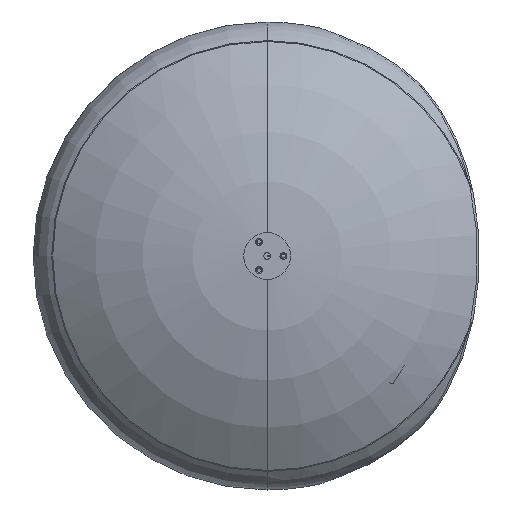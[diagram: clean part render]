
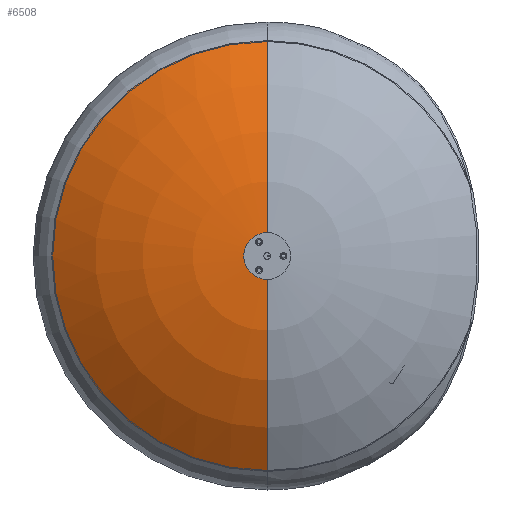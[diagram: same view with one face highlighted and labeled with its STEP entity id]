
A CAD part, front view. The second image highlights one B-rep face of the part: STEP entity #6508.
In plain terms, the highlighted toroidal (fillet/blend) face has major radius 36 mm and minor radius 500 mm.
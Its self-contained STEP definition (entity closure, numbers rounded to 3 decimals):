
#6438 = ORIENTED_EDGE ( 'NONE', *, *, #66370, .F. ) ;
#6508 = ADVANCED_FACE ( 'NONE', ( #77095 ), #42837, .T. ) ;
#8119 = AXIS2_PLACEMENT_3D ( 'NONE', #49547, #110938, #67344 ) ;
#16098 = EDGE_LOOP ( 'NONE', ( #6438, #65609, #107525, #49657 ) ) ;
#17251 = CARTESIAN_POINT ( 'NONE',  ( 0., -350., -36. ) ) ;
#18006 = AXIS2_PLACEMENT_3D ( 'NONE', #101297, #23293, #39960 ) ;
#23293 = DIRECTION ( 'NONE',  ( 1., 0., 0. ) ) ;
#36507 = CARTESIAN_POINT ( 'NONE',  ( 0., 150., 36. ) ) ;
#39960 = DIRECTION ( 'NONE',  ( 0., 0., -1. ) ) ;
#42837 = TOROIDAL_SURFACE ( 'NONE', #8119, 36., 500. ) ;
#49547 = CARTESIAN_POINT ( 'NONE',  ( 0., -350., 0. ) ) ;
#49657 = ORIENTED_EDGE ( 'NONE', *, *, #53375, .F. ) ;
#51596 = CARTESIAN_POINT ( 'NONE',  ( 0., 53.389, 0. ) ) ;
#52258 = DIRECTION ( 'NONE',  ( -1., 0., 0. ) ) ;
#53375 = EDGE_CURVE ( 'NONE', #74334, #89448, #76035, .T. ) ;
#57011 = CARTESIAN_POINT ( 'NONE',  ( 0., 150., 0. ) ) ;
#58174 = EDGE_CURVE ( 'NONE', #80685, #86419, #102162, .T. ) ;
#61575 = CARTESIAN_POINT ( 'NONE',  ( 0., 53.389, -331.428 ) ) ;
#61929 = CARTESIAN_POINT ( 'NONE',  ( 0., 150., -36. ) ) ;
#63048 = EDGE_CURVE ( 'NONE', #86419, #89448, #98331, .T. ) ;
#63178 = AXIS2_PLACEMENT_3D ( 'NONE', #51596, #79119, #103797 ) ;
#65609 = ORIENTED_EDGE ( 'NONE', *, *, #58174, .T. ) ;
#66370 = EDGE_CURVE ( 'NONE', #80685, #74334, #85720, .T. ) ;
#67344 = DIRECTION ( 'NONE',  ( 0., 0., -1. ) ) ;
#67391 = AXIS2_PLACEMENT_3D ( 'NONE', #57011, #74277, #101160 ) ;
#74277 = DIRECTION ( 'NONE',  ( 0., -1., 0. ) ) ;
#74334 = VERTEX_POINT ( 'NONE', #92235 ) ;
#76035 = CIRCLE ( 'NONE', #63178, 331.428 ) ;
#77095 = FACE_OUTER_BOUND ( 'NONE', #16098, .T. ) ;
#79119 = DIRECTION ( 'NONE',  ( 0., -1., 0. ) ) ;
#80685 = VERTEX_POINT ( 'NONE', #36507 ) ;
#83677 = AXIS2_PLACEMENT_3D ( 'NONE', #17251, #52258, #111883 ) ;
#85720 = CIRCLE ( 'NONE', #18006, 500. ) ;
#86419 = VERTEX_POINT ( 'NONE', #61929 ) ;
#89448 = VERTEX_POINT ( 'NONE', #61575 ) ;
#92235 = CARTESIAN_POINT ( 'NONE',  ( 0., 53.389, 331.428 ) ) ;
#98331 = CIRCLE ( 'NONE', #83677, 500. ) ;
#101160 = DIRECTION ( 'NONE',  ( 0., 0., -1. ) ) ;
#101297 = CARTESIAN_POINT ( 'NONE',  ( 0., -350., 36. ) ) ;
#102162 = CIRCLE ( 'NONE', #67391, 36. ) ;
#103797 = DIRECTION ( 'NONE',  ( 0., 0., -1. ) ) ;
#107525 = ORIENTED_EDGE ( 'NONE', *, *, #63048, .T. ) ;
#110938 = DIRECTION ( 'NONE',  ( 0., -1., 0. ) ) ;
#111883 = DIRECTION ( 'NONE',  ( 0., -1., 0. ) ) ;
